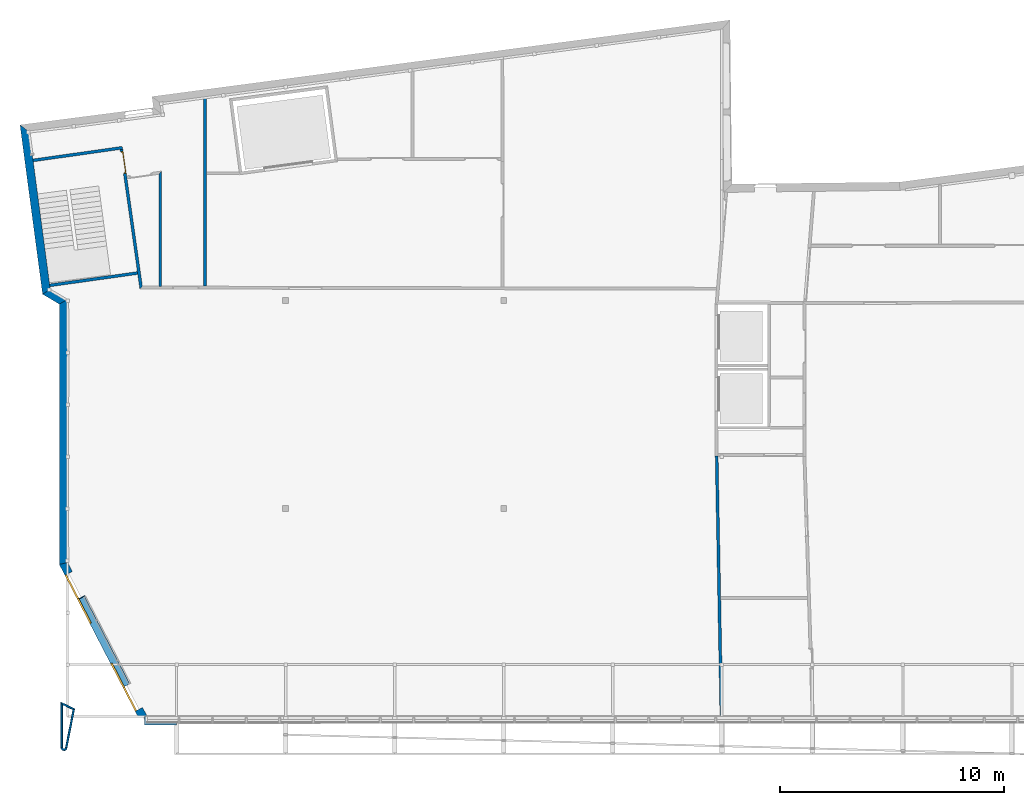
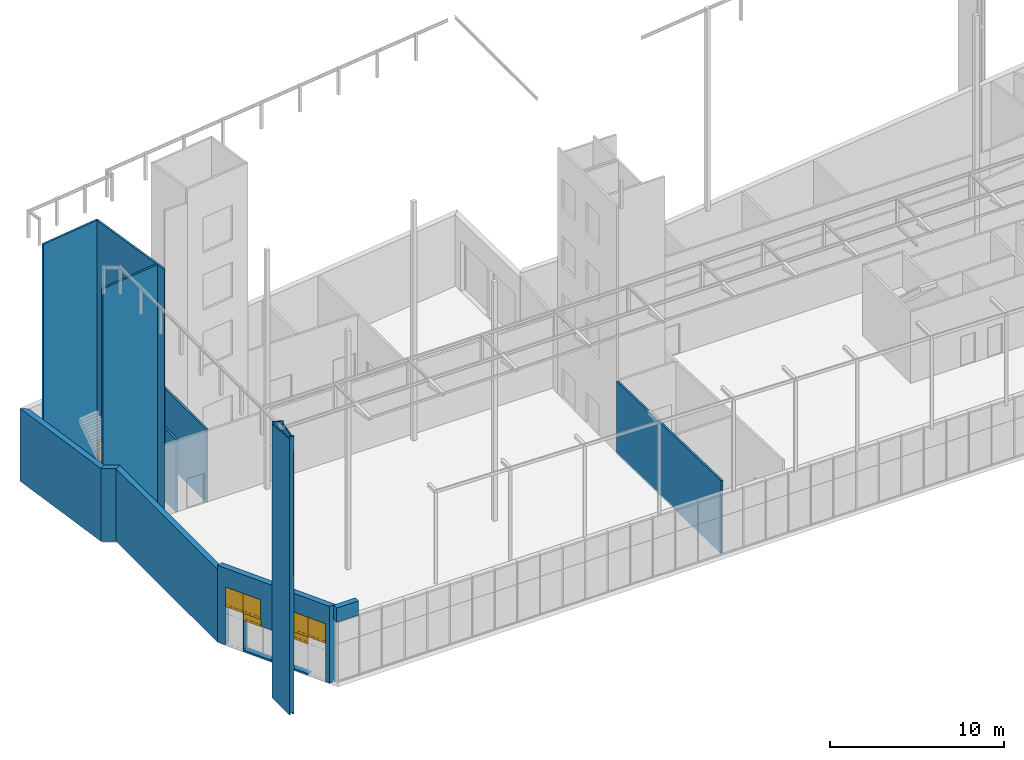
# One storey, part 23 of 40: 15 walls, 6 windows, 1 door, 12 openings.
"""IFC2X3 building model written with IfcOpenShell, lengths in metres."""

from ifc_helpers import new_model, entity, si_unit, converted_unit, money_unit, point, direction, frame, frame_2d, origin_with_axes, origin_2d_with_axis, place, context, subcontext, project, spatial, polyline, circle_curve, parameter, trimmed, segment, composite_curve, rectangle, outline, extrude, clip, halfspace, faceted_brep, source, transform, mapped, material, material_list, layer, layer_set, layer_usage, type_object, element, fill, save


model = new_model("IFC2X3")

# Units and contexts
model_context = context("Model", 3, precision=1e-05, world=origin_with_axes(), true_north=direction((0.0, 1.0)))
body_context = subcontext(model_context, "Body", "Model", "MODEL_VIEW")
ifc_project = project(units=[si_unit("LENGTHUNIT", "METRE"), si_unit("AREAUNIT", "SQUARE_METRE"), si_unit("VOLUMEUNIT", "CUBIC_METRE"), converted_unit("PLANEANGLEUNIT", "DEGREE", entity("IfcPlaneAngleMeasure", 0.0174532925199), si_unit("PLANEANGLEUNIT", "RADIAN"), dimensions=[0, 0, 0, 0, 0, 0, 0]), si_unit("SOLIDANGLEUNIT", "STERADIAN"), money_unit("EUR"), converted_unit("TIMEUNIT", "Year", entity("IfcTimeMeasure", 31556926.0), si_unit("TIMEUNIT", "SECOND"), dimensions=[0, 0, 0, 0, 0, 0, 0]), si_unit("MASSUNIT", "GRAM"), si_unit("THERMODYNAMICTEMPERATUREUNIT", "DEGREE_CELSIUS"), si_unit("LUMINOUSINTENSITYUNIT", "LUMEN")], contexts=[model_context])

# Site, building, storey
site_placement = place(None, origin_with_axes())
site = spatial("IfcSite", under=ifc_project, at=site_placement, Name="Undefined", CompositionType="ELEMENT")
building_placement = place(site_placement, origin_with_axes())
building = spatial("IfcBuilding", under=site, at=building_placement, Name="Undefined", CompositionType="ELEMENT")
storey_placement = place(building_placement, origin_with_axes())
storey = spatial("IfcBuildingStorey", under=building, at=storey_placement, Name="Rez de chauss\x8ee", CompositionType="ELEMENT", Elevation=0.0)

# Walls
ifc_material_1 = material(Name="Finition int - Enduit pl\x89tre")
ifc_layer_1 = layer(ifc_material_1, 0.015, ventilated="UNKNOWN")
ifc_material_2 = material(Name="Struct. - Parpaing b\x8eton")
ifc_layer_2 = layer(ifc_material_2, 0.1, ventilated="UNKNOWN")
ifc_layer_3 = layer(ifc_material_1, 0.015, ventilated="UNKNOWN")
ifc_layer_set_1 = layer_set([ifc_layer_1, ifc_layer_2, ifc_layer_3], Name="0.0-Cloison: parpaing + pl\x89tre 2 faces copie")
ifc_layer_usage_1 = layer_usage(ifc_layer_set_1, "AXIS2", "POSITIVE", 0.0)
wall_type_1 = type_object("IfcWallType", Name="0.0-Cloison: parpaing + pl\x89tre 2 faces copie 130", PredefinedType="NOTDEFINED")
wall_1_placement = place(storey_placement, frame((28.9587660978, 11.6446505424, 0.0), z_axis=(0.0, 0.0, 1.0), x_axis=(0.0181379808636, -0.999835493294, 0.0)))
element("IfcWallStandardCase", 1, at=wall_1_placement, inside=storey, type_object=wall_type_1, material=ifc_layer_usage_1, Name="Wall_Int_06", context=body_context, shape_type="SweptSolid", body=[
    extrude(outline(polyline([(0.0, 0.0), (11.6468385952, 0.0), (11.6468385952, 0.13), (0.0, 0.13), (0.0, 0.0)])), origin_with_axes(), (0.0, 0.0, 1.0), 5.12),
])
ifc_layer_usage_2 = layer_usage(ifc_layer_set_1, "AXIS2", "POSITIVE", 0.0)
wall_2_placement = place(storey_placement, frame((-1.90002112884, 24.7502008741, 0.0), z_axis=(0.0, 0.0, 1.0), x_axis=(0.990021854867, 0.140913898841, 0.0)))
element("IfcWallStandardCase", 2, at=wall_2_placement, inside=storey, type_object=wall_type_1, material=ifc_layer_usage_2, Name="Wall_Int_02", context=body_context, shape_type="SweptSolid", body=[
    extrude(outline(polyline([(0.370014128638, 0.0), (4.40113327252, 0.0), (4.40113327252, 0.13), (0.371150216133, 0.13), (0.370014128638, 0.0)])), origin_with_axes(), (0.0, 0.0, 1.0), 17.4249999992),
])

# Wall, opening, door
ifc_layer_usage_3 = layer_usage(ifc_layer_set_1, "AXIS2", "POSITIVE", 0.0)
wall_3_placement = place(storey_placement, frame((3.34368482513, 19.2492296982, 0.0), z_axis=(0.0, 0.0, 1.0), x_axis=(-0.140927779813, 0.990019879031, 0.0)))
wall_3 = element("IfcWallStandardCase", 3, at=wall_3_placement, inside=storey, type_object=wall_type_1, material=ifc_layer_usage_3, Name="Wall_Int_02", context=body_context, shape_type="SweptSolid", body=[
    extrude(outline(polyline([(0.0, 0.0), (6.19999294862, 0.0), (6.19999294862, 0.13), (-0.112560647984, 0.13), (0.0, 0.0)])), origin_with_axes(), (0.0, 0.0, 1.0), 17.4249999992),
])
opening_1_placement = place(wall_3_placement, frame((5.59350374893, 0.0, 0.0), z_axis=(0.0, 0.0, 1.0), x_axis=(1.0, 0.0, 0.0)))
opening_1 = element("IfcOpeningElement", 4, at=opening_1_placement, cuts=wall_3, Name="DOOR_1000", context=body_context, shape_type="SweptSolid", body=[
    extrude(rectangle(XDim=1.0, YDim=2.1, at=origin_2d_with_axis()), frame((0.0, -0.13, 1.05), z_axis=(0.0, 1.0, 0.0), x_axis=(1.0, 0.0, 0.0)), (0.0, 0.0, 1.0), 0.13),
    extrude(rectangle(XDim=1.0, YDim=2.1, at=origin_2d_with_axis()), frame((0.0, 0.13, 1.05), z_axis=(0.0, -1.0, 0.0), x_axis=(1.0, 0.0, 0.0)), (0.0, 0.0, 1.0), 0.13),
])
ifc_material_3 = material(Name="Background Fill-International")
ifc_material_4 = material(Name="Air Space")
ifc_material_list_1 = material_list([ifc_material_3, ifc_material_4])
door_style = type_object("IfcDoorStyle", Name="IFC Porte - Simple battant", ConstructionType="NOTDEFINED", OperationType="SINGLE_SWING_RIGHT", ParameterTakesPrecedence=True, Sizeable=False)
shared_shape_1 = source(origin_with_axes(), body_context, "Body", "Brep", [
    faceted_brep([(-0.5, 0.0, 0.0), (-0.45, 0.0, 0.0), (-0.45, -0.1, 0.0), (-0.5, -0.1, 0.0), (-0.5, 0.0, 2.1), (0.5, 0.0, 2.1), (0.5, 0.0, 0.0), (0.45, 0.0, 0.0), (0.45, 0.0, 2.05), (-0.45, 0.0, 2.05), (-0.45, -0.1, 2.05), (0.45, -0.1, 2.05), (0.45, -0.1, 0.0), (0.5, -0.1, 0.0), (0.5, -0.1, 2.1), (-0.5, -0.1, 2.1)], [[[0, 1, 2, 3]], [[0, 4, 5, 6, 7, 8, 9, 1]], [[1, 9, 10, 2]], [[3, 2, 10, 11, 12, 13, 14, 15]], [[4, 0, 3, 15]], [[5, 4, 15, 14]], [[6, 5, 14, 13]], [[7, 6, 13, 12]], [[8, 7, 12, 11]], [[9, 8, 11, 10]]]),
    faceted_brep([(0.45, 0.0, 0.0), (0.45, 0.0, 2.05), (0.45, -0.04, 2.05), (0.45, -0.04, 0.0), (-0.45, 0.0, 0.0), (-0.45, 0.0, 2.05), (-0.45, -0.04, 2.05), (-0.45, -0.04, 0.0)], [[[0, 1, 2, 3]], [[0, 4, 5, 1]], [[1, 5, 6, 2]], [[3, 2, 6, 7]], [[4, 0, 3, 7]], [[5, 4, 7, 6]]]),
])
door_placement = place(opening_1_placement, frame((0.5, 0.0, 0.0), z_axis=(0.0, 0.0, 1.0), x_axis=(-1.0, 0.0, 0.0)))
door = element("IfcDoor", 5, at=door_placement, inside=storey, type_object=door_style, material=ifc_material_list_1, Name="DOOR_1000", ObjectType="DOOR", OverallHeight=2.1, OverallWidth=1.0, context=body_context, shape_type="MappedRepresentation", body=[
    mapped(shared_shape_1, transform((0.5, 0.0, 0.0))),
])
fill(opening_1, door)

# Walls
ifc_layer_usage_4 = layer_usage(ifc_layer_set_1, "AXIS2", "NEGATIVE", 0.0)
wall_4_placement = place(storey_placement, frame((6.21205352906, 28.0466281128, 0.0), z_axis=(0.0, 0.0, 1.0), x_axis=(0.0, -1.0, 0.0)))
element("IfcWallStandardCase", 6, at=wall_4_placement, inside=storey, type_object=wall_type_1, material=ifc_layer_usage_4, Name="Wall_Int_05", context=body_context, shape_type="SweptSolid", body=[
    extrude(outline(polyline([(0.390442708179, -0.13), (8.80328115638, -0.13), (8.80356043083, 0.0), (0.373229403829, 0.0), (0.390442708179, -0.13)])), origin_with_axes(), (0.0, 0.0, 1.0), 5.12),
])
ifc_layer_usage_5 = layer_usage(ifc_layer_set_1, "AXIS2", "NEGATIVE", 0.0)
wall_5_placement = place(storey_placement, frame((4.20674013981, 24.3925441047, 0.0), z_axis=(0.0, 0.0, 1.0), x_axis=(0.0, -1.0, 0.0)))
element("IfcWallStandardCase", 7, at=wall_5_placement, inside=storey, type_object=wall_type_1, material=ifc_layer_usage_5, Name="Wall_Int_05", context=body_context, shape_type="SweptSolid", body=[
    extrude(outline(polyline([(0.149547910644, -0.13), (5.1601353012, -0.13), (5.1601353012, 0.0), (0.0, 0.0), (0.149547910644, -0.13)])), origin_with_axes(), (0.0, 0.0, 1.0), 5.12),
])
ifc_layer_usage_6 = layer_usage(ifc_layer_set_1, "AXIS2", "POSITIVE", 0.0)
wall_6_placement = place(storey_placement, frame((-1.15470844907, 19.1643646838, 0.0), z_axis=(0.0, 0.0, 1.0), x_axis=(0.990268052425, 0.13917321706, 0.0)))
element("IfcWallStandardCase", 8, at=wall_6_placement, inside=storey, type_object=wall_type_1, material=ifc_layer_usage_6, Name="Wall_Int_02", context=body_context, shape_type="SweptSolid", body=[
    extrude(outline(polyline([(0.370009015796, 0.0), (4.33546541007, 0.0), (4.33523504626, 0.13), (0.370916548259, 0.13), (0.370009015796, 0.0)])), origin_with_axes(), (0.0, 0.0, 1.0), 17.4249999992),
])
ifc_material_5 = material(Name="Finition ext - Cr\x8epis")
ifc_layer_4 = layer(ifc_material_5, 0.015, ventilated="UNKNOWN")
ifc_material_6 = material(Name="Isolation - Fibres de bois")
ifc_layer_5 = layer(ifc_material_6, 0.16, ventilated="UNKNOWN")
ifc_material_7 = material(Name="Struct. - B.A. banch\x8e")
ifc_layer_6 = layer(ifc_material_7, 0.18, ventilated="UNKNOWN")
ifc_layer_7 = layer(ifc_material_1, 0.015, ventilated="UNKNOWN")
ifc_layer_set_2 = layer_set([ifc_layer_4, ifc_layer_5, ifc_layer_6, ifc_layer_7], Name="1.2-Mur ext: rev\x8et ext + isol ext + ma\x8donnerie + enduit")
ifc_layer_usage_7 = layer_usage(ifc_layer_set_2, "AXIS2", "NEGATIVE", 0.185)
wall_type_2 = type_object("IfcWallType", Name="1.2-Mur ext: rev\x8et ext + isol ext + ma\x8donnerie + enduit 370", PredefinedType="NOTDEFINED")
wall_7_placement = place(storey_placement, frame((3.4287812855, -0.186358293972, 4.4), z_axis=(0.0, 0.0, 1.0), x_axis=(1.0, 0.0, 0.0)))
element("IfcWallStandardCase", 9, at=wall_7_placement, inside=storey, type_object=wall_type_2, material=ifc_layer_usage_7, Name="ExtWall_02", ObjectType="WALL", context=body_context, shape_type="SweptSolid", body=[
    extrude(outline(polyline([(0.0, -0.185), (1.44621871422, -0.185), (1.44621871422, 0.185), (0.0, 0.185), (0.0, -0.185)])), origin_with_axes(), (0.0, 0.0, 1.0), 1.0),
])

# Wall, openings, windows
ifc_layer_usage_8 = layer_usage(ifc_layer_set_2, "AXIS2", "NEGATIVE", 0.0)
wall_8_placement = place(storey_placement, frame((3.31909931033, -0.33546816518, 0.0), z_axis=(0.0, 0.0, 1.0), x_axis=(-0.459247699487, 0.888308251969, 0.0)))
wall_8 = element("IfcWallStandardCase", 10, at=wall_8_placement, inside=storey, type_object=wall_type_2, material=ifc_layer_usage_8, Name="SW - 013", context=body_context, shape_type="SweptSolid", body=[
    extrude(outline(polyline([(0.186362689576, -0.37), (7.94293225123, -0.37), (8.03291843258, 0.0), (0.377649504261, 0.0), (0.186362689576, -0.37)])), origin_with_axes(), (0.0, 0.0, 1.0), 5.4),
])
opening_2_placement = place(wall_8_placement, frame((6.88324395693, 0.0, 0.0), z_axis=(0.0, 0.0, 1.0), x_axis=(1.0, 0.0, 0.0)))
element("IfcOpeningElement", 11, at=opening_2_placement, cuts=wall_8, Name="WD - 003", context=body_context, shape_type="SweptSolid", body=[
    extrude(rectangle(XDim=1.2, YDim=2.7, at=origin_2d_with_axis()), frame((0.0, -0.37, 1.35), z_axis=(0.0, 1.0, 0.0), x_axis=(1.0, 0.0, 0.0)), (0.0, 0.0, 1.0), 1.11),
])
opening_3_placement = place(wall_8_placement, frame((5.68324395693, 0.0, 2.7), z_axis=(0.0, 0.0, 1.0), x_axis=(1.0, 0.0, 0.0)))
opening_3 = element("IfcOpeningElement", 12, at=opening_3_placement, cuts=wall_8, Name="WD - 003", context=body_context, shape_type="SweptSolid", body=[
    extrude(rectangle(XDim=1.2, YDim=1.38165160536, at=origin_2d_with_axis()), frame((0.0, -0.37, 0.690825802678), z_axis=(0.0, 1.0, 0.0), x_axis=(1.0, 0.0, 0.0)), (0.0, 0.0, 1.0), 1.11),
])
opening_4_placement = place(wall_8_placement, frame((6.88324395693, 0.0, 2.7), z_axis=(0.0, 0.0, 1.0), x_axis=(1.0, 0.0, 0.0)))
opening_4 = element("IfcOpeningElement", 13, at=opening_4_placement, cuts=wall_8, Name="WD - 003", context=body_context, shape_type="SweptSolid", body=[
    extrude(rectangle(XDim=1.2, YDim=1.38165160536, at=origin_2d_with_axis()), frame((0.0, -0.37, 0.690825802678), z_axis=(0.0, 1.0, 0.0), x_axis=(1.0, 0.0, 0.0)), (0.0, 0.0, 1.0), 1.11),
])
opening_5_placement = place(wall_8_placement, frame((1.24257787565, 0.0, 0.0), z_axis=(0.0, 0.0, 1.0), x_axis=(1.0, 0.0, 0.0)))
element("IfcOpeningElement", 14, at=opening_5_placement, cuts=wall_8, Name="WD - 003", context=body_context, shape_type="SweptSolid", body=[
    extrude(rectangle(XDim=1.2, YDim=2.7, at=origin_2d_with_axis()), frame((0.0, -0.37, 1.35), z_axis=(0.0, 1.0, 0.0), x_axis=(1.0, 0.0, 0.0)), (0.0, 0.0, 1.0), 1.11),
])
opening_6_placement = place(wall_8_placement, frame((1.24257787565, 0.0, 2.7), z_axis=(0.0, 0.0, 1.0), x_axis=(1.0, 0.0, 0.0)))
opening_6 = element("IfcOpeningElement", 15, at=opening_6_placement, cuts=wall_8, Name="WD - 003", context=body_context, shape_type="SweptSolid", body=[
    extrude(rectangle(XDim=1.2, YDim=1.38165160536, at=origin_2d_with_axis()), frame((0.0, -0.37, 0.690825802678), z_axis=(0.0, 1.0, 0.0), x_axis=(1.0, 0.0, 0.0)), (0.0, 0.0, 1.0), 1.11),
])
opening_7_placement = place(wall_8_placement, frame((2.44257787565, 0.0, 2.7), z_axis=(0.0, 0.0, 1.0), x_axis=(1.0, 0.0, 0.0)))
opening_7 = element("IfcOpeningElement", 16, at=opening_7_placement, cuts=wall_8, Name="WD - 003", context=body_context, shape_type="SweptSolid", body=[
    extrude(rectangle(XDim=1.2, YDim=1.38165160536, at=origin_2d_with_axis()), frame((0.0, -0.37, 0.690825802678), z_axis=(0.0, 1.0, 0.0), x_axis=(1.0, 0.0, 0.0)), (0.0, 0.0, 1.0), 1.11),
])
opening_8_placement = place(wall_8_placement, frame((5.64257787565, 0.0, 2.2), z_axis=(0.0, 0.0, 1.0), x_axis=(1.0, 0.0, 0.0)))
opening_8 = element("IfcOpeningElement", 17, at=opening_8_placement, cuts=wall_8, Name="WD - 003", context=body_context, shape_type="SweptSolid", body=[
    extrude(rectangle(XDim=1.2, YDim=0.5, at=origin_2d_with_axis()), frame((0.0, -0.37, 0.25), z_axis=(0.0, 1.0, 0.0), x_axis=(1.0, 0.0, 0.0)), (0.0, 0.0, 1.0), 1.11),
])
opening_9_placement = place(wall_8_placement, frame((2.44257787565, 0.0, 2.2), z_axis=(0.0, 0.0, 1.0), x_axis=(1.0, 0.0, 0.0)))
opening_9 = element("IfcOpeningElement", 18, at=opening_9_placement, cuts=wall_8, Name="WD - 003", context=body_context, shape_type="SweptSolid", body=[
    extrude(rectangle(XDim=1.2, YDim=0.5, at=origin_2d_with_axis()), frame((0.0, -0.37, 0.25), z_axis=(0.0, 1.0, 0.0), x_axis=(1.0, 0.0, 0.0)), (0.0, 0.0, 1.0), 1.11),
])
opening_10_placement = place(wall_8_placement, frame((5.64257787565, 0.0, 0.12), z_axis=(0.0, 0.0, 1.0), x_axis=(1.0, 0.0, 0.0)))
element("IfcOpeningElement", 19, at=opening_10_placement, cuts=wall_8, Name="DOOR", context=body_context, shape_type="SweptSolid", body=[
    extrude(rectangle(XDim=1.2, YDim=2.1, at=origin_2d_with_axis()), frame((0.0, 0.37, 1.05), z_axis=(0.0, 1.0, 0.0), x_axis=(-1.0, 0.0, 0.0)), (0.0, 0.0, -1.0), 1.11),
    extrude(rectangle(XDim=1.2, YDim=0.0260824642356, at=origin_2d_with_axis()), frame((0.0, -0.74, -0.0130412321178), z_axis=(0.0, -1.0, 0.0), x_axis=(-1.0, 0.0, 0.0)), (0.0, 0.0, -1.0), 0.391308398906),
])
opening_11_placement = place(wall_8_placement, frame((2.44257787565, 0.0, 0.12), z_axis=(0.0, 0.0, 1.0), x_axis=(1.0, 0.0, 0.0)))
element("IfcOpeningElement", 20, at=opening_11_placement, cuts=wall_8, Name="DOOR", context=body_context, shape_type="SweptSolid", body=[
    extrude(rectangle(XDim=1.2, YDim=2.1, at=origin_2d_with_axis()), frame((0.0, 0.37, 1.05), z_axis=(0.0, -1.0, 0.0), x_axis=(1.0, 0.0, 0.0)), (0.0, 0.0, 1.0), 1.11),
    extrude(rectangle(XDim=1.2, YDim=0.0260824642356, at=origin_2d_with_axis()), frame((0.0, -0.74, -0.0130412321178), z_axis=(0.0, 1.0, 0.0), x_axis=(1.0, 0.0, 0.0)), (0.0, 0.0, 1.0), 0.391308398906),
])
opening_12_placement = place(wall_8_placement, frame((4.04257787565, 0.0, 0.12), z_axis=(0.0, 0.0, 1.0), x_axis=(1.0, 0.0, 0.0)))
element("IfcOpeningElement", 21, at=opening_12_placement, cuts=wall_8, Name="DOOR", context=body_context, shape_type="SweptSolid", body=[
    extrude(rectangle(XDim=2.0, YDim=2.1, at=origin_2d_with_axis()), frame((0.0, 0.37, 1.05), z_axis=(0.0, 1.0, 0.0), x_axis=(-1.0, 0.0, 0.0)), (0.0, 0.0, -1.0), 1.11),
    extrude(rectangle(XDim=2.0, YDim=0.0260824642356, at=origin_2d_with_axis()), frame((0.0, -0.74, -0.0130412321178), z_axis=(0.0, -1.0, 0.0), x_axis=(-1.0, 0.0, 0.0)), (0.0, 0.0, -1.0), 0.391308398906),
])
ifc_material_8 = material(Name="05 | Aluminum")
ifc_material_list_2 = material_list([ifc_material_3, ifc_material_8, ifc_material_3, ifc_material_3])
window_style = type_object("IfcWindowStyle", Name="F devanture 3 15", ConstructionType="NOTDEFINED", OperationType="USERDEFINED", ParameterTakesPrecedence=False, Sizeable=False)
shared_shape_2 = source(origin_with_axes(), body_context, "Body", "Brep", [
    faceted_brep([(-0.6, 0.0, 1.38165160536), (-0.6, 0.0, 0.0), (-0.6, -0.08, 0.0), (-0.6, -0.08, 1.38165160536), (-0.56, 0.0, 1.34165160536), (-0.56, 0.0, 0.15), (-0.56, -0.08, 0.15), (-0.56, -0.08, 1.34165160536)], [[[0, 1, 2, 3]], [[0, 4, 5, 1]], [[1, 5, 6, 2]], [[3, 2, 6, 7]], [[4, 0, 3, 7]], [[5, 4, 7, 6]]]),
    faceted_brep([(0.6, 0.0, 0.0), (0.6, 0.0, 1.38165160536), (0.6, -0.08, 1.38165160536), (0.6, -0.08, 0.0), (0.56, 0.0, 0.15), (0.56, 0.0, 1.34165160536), (0.56, -0.08, 1.34165160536), (0.56, -0.08, 0.15)], [[[0, 1, 2, 3]], [[0, 4, 5, 1]], [[1, 5, 6, 2]], [[3, 2, 6, 7]], [[4, 0, 3, 7]], [[5, 4, 7, 6]]]),
    faceted_brep([(0.6, 0.0, 1.38165160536), (-0.6, 0.0, 1.38165160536), (-0.6, -0.08, 1.38165160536), (0.6, -0.08, 1.38165160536), (0.56, 0.0, 1.34165160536), (-0.56, 0.0, 1.34165160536), (-0.56, -0.08, 1.34165160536), (0.56, -0.08, 1.34165160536)], [[[0, 1, 2, 3]], [[0, 4, 5, 1]], [[1, 5, 6, 2]], [[3, 2, 6, 7]], [[4, 0, 3, 7]], [[5, 4, 7, 6]]]),
    faceted_brep([(0.6, 0.0, 0.0), (0.56, 0.0, 0.15), (0.56, -0.08, 0.15), (0.6, -0.08, 0.0), (-0.6, 0.0, 0.0), (-0.56, 0.0, 0.15), (-0.56, -0.08, 0.15), (-0.6, -0.08, 0.0)], [[[0, 1, 2, 3]], [[0, 4, 5, 1]], [[1, 5, 6, 2]], [[3, 2, 6, 7]], [[4, 0, 3, 7]], [[5, 4, 7, 6]]]),
    faceted_brep([(-0.56, -0.01, 0.15), (0.56, -0.01, 0.15), (0.56, -0.02, 0.15), (-0.56, -0.02, 0.15), (-0.56, -0.01, 1.34165160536), (0.56, -0.01, 1.34165160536), (0.56, -0.02, 1.34165160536), (-0.56, -0.02, 1.34165160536)], [[[0, 1, 2, 3]], [[0, 4, 5, 1]], [[1, 5, 6, 2]], [[3, 2, 6, 7]], [[4, 0, 3, 7]], [[5, 4, 7, 6]]]),
])
window_1_placement = place(opening_3_placement, frame((-0.6, 0.0, 0.0), z_axis=(0.0, 0.0, 1.0), x_axis=(1.0, 0.0, 0.0)))
window_1 = element("IfcWindow", 22, at=window_1_placement, inside=storey, type_object=window_style, material=ifc_material_list_2, Name="WD - 003", OverallHeight=1.38165, OverallWidth=1.2, context=body_context, shape_type="MappedRepresentation", body=[
    mapped(shared_shape_2, transform((0.6, 0.0, 0.0))),
])
fill(opening_3, window_1)
window_2_placement = place(opening_4_placement, frame((-0.6, 0.0, 0.0), z_axis=(0.0, 0.0, 1.0), x_axis=(1.0, 0.0, 0.0)))
window_2 = element("IfcWindow", 23, at=window_2_placement, inside=storey, type_object=window_style, material=ifc_material_list_2, Name="WD - 003", OverallHeight=1.38165, OverallWidth=1.2, context=body_context, shape_type="MappedRepresentation", body=[
    mapped(shared_shape_2, transform((0.6, 0.0, 0.0))),
])
fill(opening_4, window_2)
window_3_placement = place(opening_6_placement, frame((-0.6, 0.0, 0.0), z_axis=(0.0, 0.0, 1.0), x_axis=(1.0, 0.0, 0.0)))
window_3 = element("IfcWindow", 24, at=window_3_placement, inside=storey, type_object=window_style, material=ifc_material_list_2, Name="WD - 003", OverallHeight=1.38165, OverallWidth=1.2, context=body_context, shape_type="MappedRepresentation", body=[
    mapped(shared_shape_2, transform((0.6, 0.0, 0.0))),
])
fill(opening_6, window_3)
window_4_placement = place(opening_7_placement, frame((-0.6, 0.0, 0.0), z_axis=(0.0, 0.0, 1.0), x_axis=(1.0, 0.0, 0.0)))
window_4 = element("IfcWindow", 25, at=window_4_placement, inside=storey, type_object=window_style, material=ifc_material_list_2, Name="WD - 003", OverallHeight=1.38165, OverallWidth=1.2, context=body_context, shape_type="MappedRepresentation", body=[
    mapped(shared_shape_2, transform((0.6, 0.0, 0.0))),
])
fill(opening_7, window_4)
shared_shape_3 = source(origin_with_axes(), body_context, "Body", "Brep", [
    faceted_brep([(-0.6, 0.0, 0.5), (-0.6, 0.0, 0.0), (-0.6, -0.08, 0.0), (-0.6, -0.08, 0.5), (-0.56, 0.0, 0.46), (-0.56, 0.0, 0.15), (-0.56, -0.08, 0.15), (-0.56, -0.08, 0.46)], [[[0, 1, 2, 3]], [[0, 4, 5, 1]], [[1, 5, 6, 2]], [[3, 2, 6, 7]], [[4, 0, 3, 7]], [[5, 4, 7, 6]]]),
    faceted_brep([(0.6, 0.0, 0.0), (0.6, 0.0, 0.5), (0.6, -0.08, 0.5), (0.6, -0.08, 0.0), (0.56, 0.0, 0.15), (0.56, 0.0, 0.46), (0.56, -0.08, 0.46), (0.56, -0.08, 0.15)], [[[0, 1, 2, 3]], [[0, 4, 5, 1]], [[1, 5, 6, 2]], [[3, 2, 6, 7]], [[4, 0, 3, 7]], [[5, 4, 7, 6]]]),
    faceted_brep([(0.6, 0.0, 0.5), (-0.6, 0.0, 0.5), (-0.6, -0.08, 0.5), (0.6, -0.08, 0.5), (0.56, 0.0, 0.46), (-0.56, 0.0, 0.46), (-0.56, -0.08, 0.46), (0.56, -0.08, 0.46)], [[[0, 1, 2, 3]], [[0, 4, 5, 1]], [[1, 5, 6, 2]], [[3, 2, 6, 7]], [[4, 0, 3, 7]], [[5, 4, 7, 6]]]),
    faceted_brep([(0.6, 0.0, 0.0), (0.56, 0.0, 0.15), (0.56, -0.08, 0.15), (0.6, -0.08, 0.0), (-0.6, 0.0, 0.0), (-0.56, 0.0, 0.15), (-0.56, -0.08, 0.15), (-0.6, -0.08, 0.0)], [[[0, 1, 2, 3]], [[0, 4, 5, 1]], [[1, 5, 6, 2]], [[3, 2, 6, 7]], [[4, 0, 3, 7]], [[5, 4, 7, 6]]]),
    faceted_brep([(-0.56, -0.01, 0.15), (0.56, -0.01, 0.15), (0.56, -0.02, 0.15), (-0.56, -0.02, 0.15), (-0.56, -0.01, 0.46), (0.56, -0.01, 0.46), (0.56, -0.02, 0.46), (-0.56, -0.02, 0.46)], [[[0, 1, 2, 3]], [[0, 4, 5, 1]], [[1, 5, 6, 2]], [[3, 2, 6, 7]], [[4, 0, 3, 7]], [[5, 4, 7, 6]]]),
])
window_5_placement = place(opening_8_placement, frame((-0.6, 0.0, 0.0), z_axis=(0.0, 0.0, 1.0), x_axis=(1.0, 0.0, 0.0)))
window_5 = element("IfcWindow", 26, at=window_5_placement, inside=storey, type_object=window_style, material=ifc_material_list_2, Name="WD - 003", OverallHeight=0.5, OverallWidth=1.2, context=body_context, shape_type="MappedRepresentation", body=[
    mapped(shared_shape_3, transform((0.6, 0.0, 0.0))),
])
fill(opening_8, window_5)
window_6_placement = place(opening_9_placement, frame((-0.6, 0.0, 0.0), z_axis=(0.0, 0.0, 1.0), x_axis=(1.0, 0.0, 0.0)))
window_6 = element("IfcWindow", 27, at=window_6_placement, inside=storey, type_object=window_style, material=ifc_material_list_2, Name="WD - 003", OverallHeight=0.5, OverallWidth=1.2, context=body_context, shape_type="MappedRepresentation", body=[
    mapped(shared_shape_3, transform((0.6, 0.0, 0.0))),
])
fill(opening_9, window_6)

# Walls
ifc_layer_usage_9 = layer_usage(ifc_layer_set_2, "AXIS2", "POSITIVE", 0.0)
wall_9_placement = place(storey_placement, frame((-1.11763836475, 18.886538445, 0.0), z_axis=(0.0, 0.0, 1.0), x_axis=(0.859493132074, -0.51114729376, 0.0)))
element("IfcWallStandardCase", 28, at=wall_9_placement, inside=storey, type_object=wall_type_2, material=ifc_layer_usage_9, Name="WallEx", ObjectType="WALL", context=body_context, shape_type="SweptSolid", body=[
    extrude(outline(polyline([(0.0, 0.0), (0.869859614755, 0.0), (1.0803039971, 0.37), (0.179102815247, 0.37), (0.0, 0.0)])), origin_with_axes(), (0.0, 0.0, 1.0), 5.12),
])
ifc_layer_usage_10 = layer_usage(ifc_layer_set_2, "AXIS2", "POSITIVE", 0.0)
wall_10_placement = place(storey_placement, frame((-2.12776502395, 26.4570550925, 0.0), z_axis=(0.0, 0.0, 1.0), x_axis=(0.132256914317, -0.991215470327, 0.0)))
element("IfcWallStandardCase", 29, at=wall_10_placement, inside=storey, type_object=wall_type_2, material=ifc_layer_usage_10, Name="WallEx", ObjectType="WALL", context=body_context, shape_type="SweptSolid", body=[
    extrude(outline(polyline([(0.0, 0.0), (7.63760945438, 0.0), (7.45850663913, 0.37), (0.371468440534, 0.37), (0.0, 0.0)])), origin_with_axes(), (0.0, 0.0, 1.0), 5.12),
])
ifc_layer_usage_11 = layer_usage(ifc_layer_set_2, "AXIS2", "POSITIVE", 0.0)
wall_11_placement = place(storey_placement, frame((-0.37, 18.441912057, 0.0), z_axis=(0.0, 0.0, 1.0), x_axis=(0.0, -1.0, 0.0)))
element("IfcWallStandardCase", 30, at=wall_11_placement, inside=storey, type_object=wall_type_2, material=ifc_layer_usage_11, Name="WallEx", ObjectType="WALL", context=body_context, shape_type="SweptSolid", body=[
    extrude(outline(polyline([(0.0, 0.0), (11.6416724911, 0.0), (11.5516863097, 0.37), (-0.210444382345, 0.37), (0.0, 0.0)])), origin_with_axes(), (0.0, 0.0, 1.0), 5.12),
])
ifc_material_9 = material(Name="% Ê50 1740021793")
ifc_layer_8 = layer(ifc_material_9, 0.075, ventilated="UNKNOWN")
ifc_layer_set_3 = layer_set([ifc_layer_8], Name="% Ê50 1740021793 0.075")
ifc_layer_usage_12 = layer_usage(ifc_layer_set_3, "AXIS2", "NEGATIVE", 0.0375)
wall_type_3 = type_object("IfcWallType", Name="% Ê50 1740021793 75", PredefinedType="NOTDEFINED")
wall_12_placement = place(storey_placement, frame((-0.261325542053, 0.586863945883, -0.195), z_axis=(0.0, 0.0, 1.0), x_axis=(0.0, -1.0, 0.0)))
element("IfcWallStandardCase", 31, at=wall_12_placement, inside=storey, type_object=wall_type_3, material=ifc_layer_usage_12, Name="WallEx_04", ObjectType="WALL", context=body_context, shape_type="Clipping", body=[
    clip(extrude(outline(polyline([(-0.0596376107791, -0.0375), (1.97148570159, -0.0375), (1.97148570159, 0.0375), (0.0596376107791, 0.0375), (-0.0596376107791, -0.0375)])), origin_with_axes(), (0.0, 0.0, 1.0), 22.195), halfspace(frame((-1.66934799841, 0.0, 19.0807349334), z_axis=(0.0871557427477, 0.0, -0.996194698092), x_axis=(0.0, 1.0, 0.0)), True)),
])
ifc_layer_usage_13 = layer_usage(ifc_layer_set_3, "AXIS2", "NEGATIVE", 0.0375)
wall_13_placement = place(storey_placement, frame((0.277345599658, 0.327887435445, 0.0), z_axis=(0.0, 0.0, 1.0), x_axis=(-0.901252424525, 0.433294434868, 0.0)))
element("IfcWallStandardCase", 32, at=wall_13_placement, inside=storey, type_object=wall_type_3, material=ifc_layer_usage_13, Name="WallEx_04", ObjectType="WALL", context=body_context, shape_type="Clipping", body=[
    clip(extrude(outline(polyline([(-0.0290084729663, -0.0375), (0.657329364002, -0.0375), (0.538054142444, 0.0375), (0.0290084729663, 0.0375), (-0.0290084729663, -0.0375)])), origin_with_axes(), (0.0, 0.0, 1.0), 22.0), halfspace(frame((0.724171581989, -1.50627689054, 19.1032203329), z_axis=(-0.0377640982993, 0.0785493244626, -0.996194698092), x_axis=(0.0, 0.996905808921, 0.0786053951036)), True)),
])
ifc_layer_usage_14 = layer_usage(ifc_layer_set_3, "AXIS2", "NEGATIVE", 0.0375)
wall_14_placement = place(storey_placement, frame((-0.0632046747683, -1.40391671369, -0.195), z_axis=(0.0, 0.0, 1.0), x_axis=(0.192949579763, 0.981208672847, 0.0)))
element("IfcWallStandardCase", 33, at=wall_14_placement, inside=storey, type_object=wall_type_3, material=ifc_layer_usage_14, Name="WallEx_04", ObjectType="WALL", context=body_context, shape_type="Clipping", body=[
    clip(extrude(outline(polyline([(0.0, -0.0375), (1.79397875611, -0.0375), (1.73596181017, 0.0375), (0.0, 0.0375), (0.0, -0.0375)])), origin_with_axes(), (0.0, 0.0, 1.0), 22.195), halfspace(frame((1.65281678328, 0.325017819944, 19.2535826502), z_axis=(-0.0855179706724, -0.0168166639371, -0.996194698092), x_axis=(0.0, 0.999857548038, -0.0168784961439)), True)),
])
ifc_layer_usage_15 = layer_usage(ifc_layer_set_3, "AXIS2", "NEGATIVE", 0.0375)
wall_15_placement = place(storey_placement, frame((-0.261325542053, -1.38462175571, 0.0), z_axis=(0.0, 0.0, 1.0), x_axis=(0.0, -1.0, 0.0)))
element("IfcWallStandardCase", 34, at=wall_15_placement, inside=storey, type_object=wall_type_3, material=ifc_layer_usage_15, Name="WallEx_04", ObjectType="WALL", context=body_context, shape_type="Clipping", body=[
    clip(extrude(outline(composite_curve([segment(trimmed(circle_curve(frame_2d((0.0, 0.1), x_axis=(0.0, -1.0)), 0.1375), [point((0.0, -0.0375)), parameter(0.0)], [point((0.0265305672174, 0.234916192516)), parameter(168.875031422)], True, "CARTESIAN"), True, "CONTINUOUS"), segment(polyline([(0.0265305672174, 0.234916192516), (0.0120593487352, 0.161325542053)]), True, "CONTINUOUS"), segment(trimmed(circle_curve(frame_2d((0.0, 0.1), x_axis=(0.0, -1.0)), 0.0625), [point((0.0120593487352, 0.161325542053)), parameter(168.875031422)], [point((0.0, 0.0375)), parameter(0.0)], False, "CARTESIAN"), True, "CONTINUOUS"), segment(polyline([(0.0, 0.0375), (0.0, -0.0375)]), True, "CONTINUOUS")], self_intersect=False)), origin_with_axes(), (0.0, 0.0, 1.0), 22.0), halfspace(frame((-1.68432364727, 0.0, 19.2519073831), z_axis=(0.0871557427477, 0.0, -0.996194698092), x_axis=(0.0, 1.0, 0.0)), True)),
])

save(model, "model.ifc")
